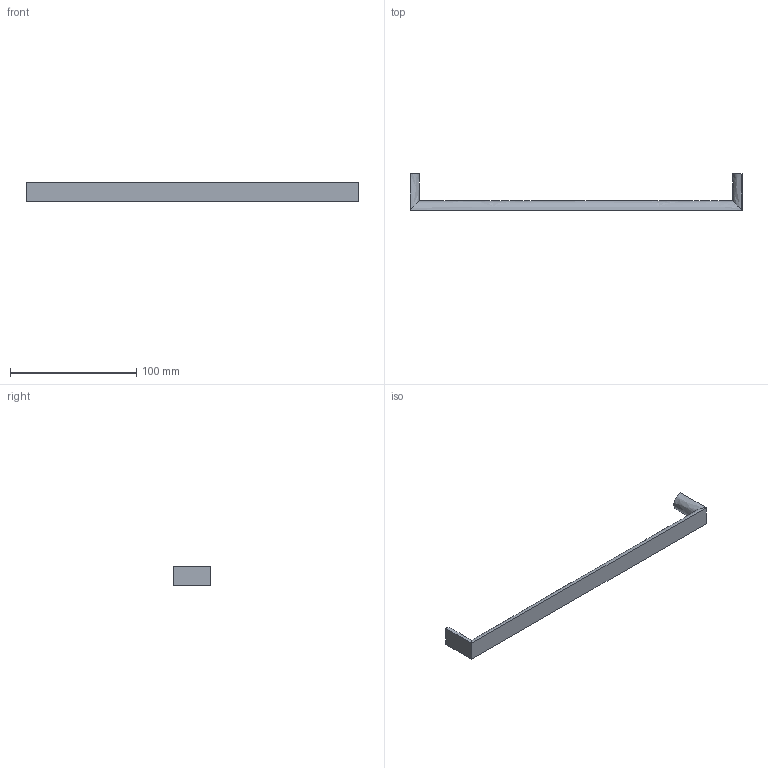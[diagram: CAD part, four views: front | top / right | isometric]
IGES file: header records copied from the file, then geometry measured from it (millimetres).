
Start section: Data from Parasolid IGES Translator 15.0.47, Copyright(c) 2006 Siemens P LM Software. All Rights Reserved.
Global section: file name: 9995484.igs; native system:  By UGS Corp.; preprocessor: XPlus GENERIC/IGES 3.0; author: Noname; organization: Noname; date: 20140122.172346; units: millimetre
Bounding box: 263 x 29 x 15.5 mm (x, y, z)
Surface area: 12658.1 mm2 (no closed solid volume)
Topology: 0 solids, 0 shells, 12 faces, 40 edges, 38 vertices
Faces by surface type: extrusion 7, revolution 5
